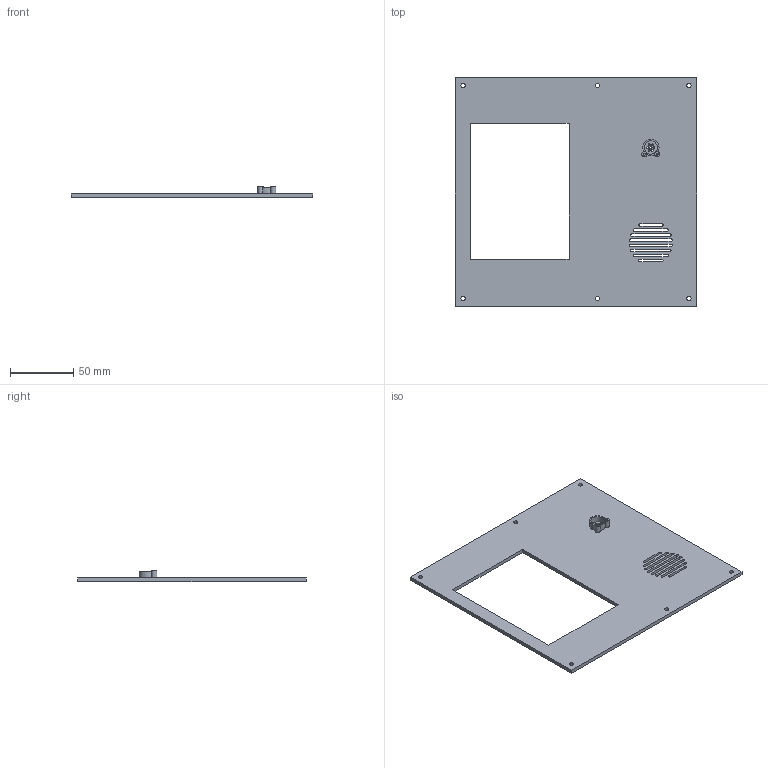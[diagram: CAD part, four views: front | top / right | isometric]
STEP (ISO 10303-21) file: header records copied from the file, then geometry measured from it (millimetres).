
FILE_DESCRIPTION(('Open CASCADE Model'),'2;1');
FILE_NAME('Open CASCADE Shape Model','2026-11-12T17:04:52',('Author'),( 'Open CASCADE'),'Open CASCADE STEP processor 7.8','Open CASCADE 7.8' ,'Unknown');
FILE_SCHEMA(('AUTOMOTIVE_DESIGN { 1 0 10303 214 1 1 1 1 }'));
Length unit declared in the file: millimetre
Products named in the file (1): Open CASCADE STEP translator 7.8 2
Bounding box: 190 x 180 x 9 mm (x, y, z)
Volume: 76360.8 mm3; surface area: 56227.8 mm2
Topology: 1 solids, 1 shells, 76 faces, 207 edges, 138 vertices
Faces by surface type: cylinder 39, plane 37
Full cylindrical faces by diameter (mm): 1.6 x9, 3.3 x6, 4.1 x2
Entity records: 5449 total; most frequent: CARTESIAN_POINT 1274, DIRECTION 792, LINE 441, VECTOR 441, ORIENTED_EDGE 414, PCURVE 414, DEFINITIONAL_REPRESENTATION 414, EDGE_CURVE 207
